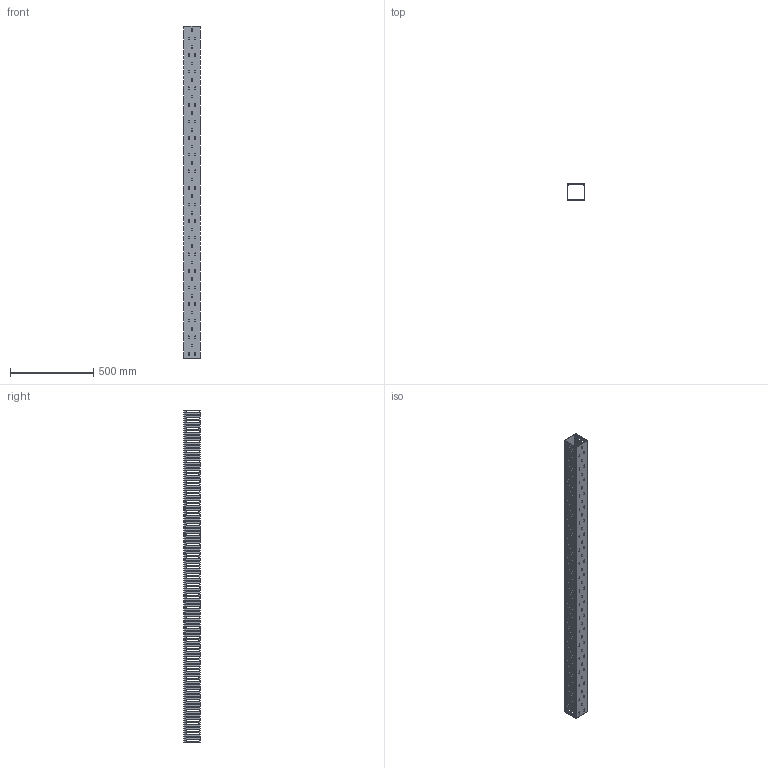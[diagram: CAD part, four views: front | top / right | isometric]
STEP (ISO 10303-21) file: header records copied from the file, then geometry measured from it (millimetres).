
FILE_DESCRIPTION (( 'STEP AP214' ), '1' );
FILE_NAME ('KD-1010-20-H.STEP', '2020-02-19T01:51:17', ( '' ), ( '' ), 'SwSTEP 2.0', 'SolidWorks 2018', '' );
FILE_SCHEMA (( 'AUTOMOTIVE_DESIGN' ));
Length unit declared in the file: millimetre
Products named in the file (3): KD-1010-20-H-body; KD-1010-20-H; KD-106-20-cover
Assembly tree (2 placements, depth 2):
  KD-1010-20-H
    KD-1010-20-H-body
    KD-106-20-cover
Bounding box: 100 x 100.17 x 2000 mm (x, y, z)
Volume: 1188610.1 mm3; surface area: 1507791.1 mm2
Topology: 2 solids, 2 shells, 1971 faces, 5901 edges, 3934 vertices
Faces by surface type: cylinder 1021, plane 950
Entity records: 68147 total; most frequent: DIRECTION 11895, CARTESIAN_POINT 11811, ORIENTED_EDGE 11802, EDGE_CURVE 5901, AXIS2_PLACEMENT_3D 4018, VERTEX_POINT 3934, LINE 3859, VECTOR 3859
